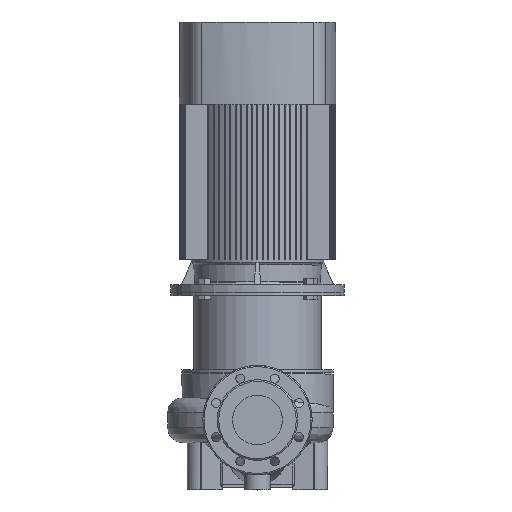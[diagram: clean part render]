
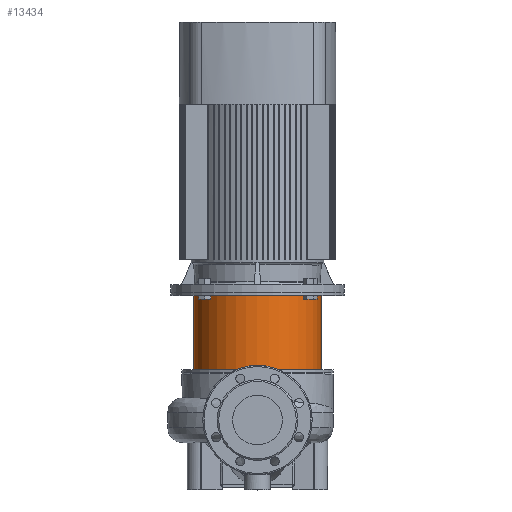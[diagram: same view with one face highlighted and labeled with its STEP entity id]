
A CAD part, top view. The second image highlights one B-rep face of the part: STEP entity #13434.
In plain terms, the highlighted cylindrical face has radius 128 mm (diameter 256 mm), a partial arc.
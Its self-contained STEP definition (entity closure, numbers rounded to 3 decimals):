
#1271 = ORIENTED_EDGE ( 'NONE', *, *, #4941, .T. ) ;
#1303 = VECTOR ( 'NONE', #4617, 1000. ) ;
#2576 = CARTESIAN_POINT ( 'NONE',  ( -128., 0., 14.36 ) ) ;
#3025 = AXIS2_PLACEMENT_3D ( 'NONE', #20028, #8535, #6013 ) ;
#3342 = ORIENTED_EDGE ( 'NONE', *, *, #30686, .F. ) ;
#4617 = DIRECTION ( 'NONE',  ( 0., 0., 1. ) ) ;
#4768 = LINE ( 'NONE', #13895, #1303 ) ;
#4941 = EDGE_CURVE ( 'NONE', #16700, #5857, #4768, .T. ) ;
#5857 = VERTEX_POINT ( 'NONE', #21225 ) ;
#6013 = DIRECTION ( 'NONE',  ( 1., 0., 0. ) ) ;
#8535 = DIRECTION ( 'NONE',  ( 0., 0., 1. ) ) ;
#9483 = EDGE_CURVE ( 'NONE', #28587, #16700, #15097, .T. ) ;
#9956 = LINE ( 'NONE', #2576, #15304 ) ;
#10278 = DIRECTION ( 'NONE',  ( 1., 0., 0. ) ) ;
#13434 = ADVANCED_FACE ( 'NONE', ( #17218 ), #27415, .T. ) ;
#13603 = CARTESIAN_POINT ( 'NONE',  ( 128., 0., -155.5 ) ) ;
#13895 = CARTESIAN_POINT ( 'NONE',  ( 128., 0., 14.36 ) ) ;
#14438 = VERTEX_POINT ( 'NONE', #24778 ) ;
#14857 = DIRECTION ( 'NONE',  ( 0., 0., 1. ) ) ;
#15097 = CIRCLE ( 'NONE', #3025, 128. ) ;
#15304 = VECTOR ( 'NONE', #26493, 1000. ) ;
#16031 = AXIS2_PLACEMENT_3D ( 'NONE', #29768, #14857, #10278 ) ;
#16700 = VERTEX_POINT ( 'NONE', #13603 ) ;
#17218 = FACE_OUTER_BOUND ( 'NONE', #22898, .T. ) ;
#18891 = ORIENTED_EDGE ( 'NONE', *, *, #9483, .T. ) ;
#19079 = DIRECTION ( 'NONE',  ( 1., 0., 0. ) ) ;
#20028 = CARTESIAN_POINT ( 'NONE',  ( 0., 0., -155.5 ) ) ;
#21225 = CARTESIAN_POINT ( 'NONE',  ( 128., 0., -6. ) ) ;
#21279 = CARTESIAN_POINT ( 'NONE',  ( 0., 0., -6. ) ) ;
#21710 = EDGE_CURVE ( 'NONE', #14438, #5857, #26623, .T. ) ;
#22898 = EDGE_LOOP ( 'NONE', ( #3342, #18891, #1271, #25395 ) ) ;
#24593 = AXIS2_PLACEMENT_3D ( 'NONE', #21279, #26002, #19079 ) ;
#24778 = CARTESIAN_POINT ( 'NONE',  ( -128., 0., -6. ) ) ;
#25395 = ORIENTED_EDGE ( 'NONE', *, *, #21710, .F. ) ;
#26002 = DIRECTION ( 'NONE',  ( 0., 0., 1. ) ) ;
#26493 = DIRECTION ( 'NONE',  ( 0., 0., 1. ) ) ;
#26563 = CARTESIAN_POINT ( 'NONE',  ( -128., 0., -155.5 ) ) ;
#26623 = CIRCLE ( 'NONE', #24593, 128. ) ;
#27415 = CYLINDRICAL_SURFACE ( 'NONE', #16031, 128. ) ;
#28587 = VERTEX_POINT ( 'NONE', #26563 ) ;
#29768 = CARTESIAN_POINT ( 'NONE',  ( 0., 0., 14.36 ) ) ;
#30686 = EDGE_CURVE ( 'NONE', #28587, #14438, #9956, .T. ) ;
